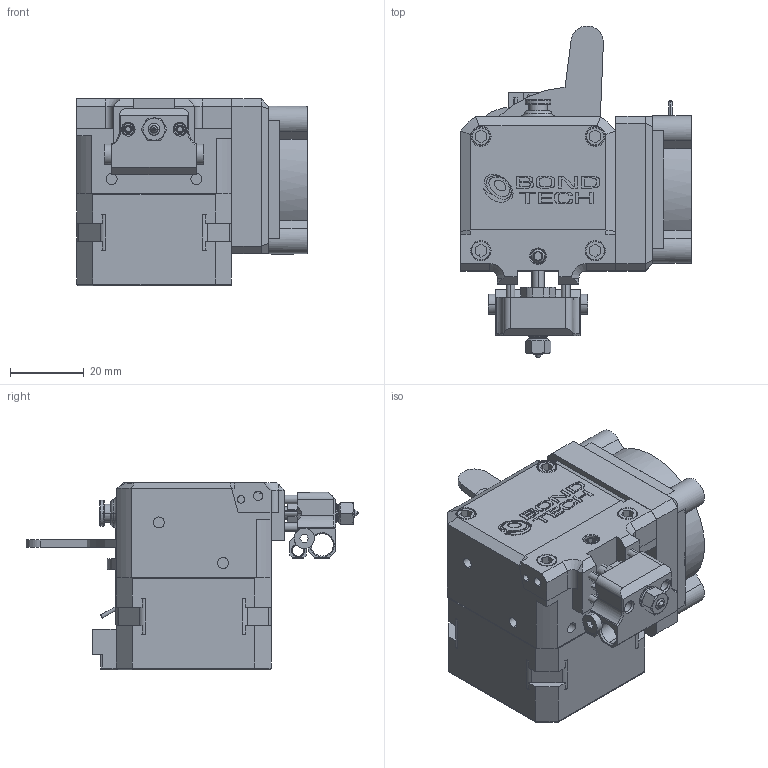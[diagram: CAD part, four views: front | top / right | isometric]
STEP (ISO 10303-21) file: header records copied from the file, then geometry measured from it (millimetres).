
FILE_DESCRIPTION (( 'STEP AP214' ), '1' );
FILE_NAME ('LGX Shortcut Mosquito RH.STEP', '2022-06-08T07:19:12', ( '' ), ( '' ), 'SwSTEP 2.0', 'SolidWorks 2022', '' );
FILE_SCHEMA (( 'AUTOMOTIVE_DESIGN' ));
Length unit declared in the file: millimetre
Products named in the file (1): LGX Shortcut Mosquito RH
Bounding box: 62.6 x 90.08 x 50.95 mm (x, y, z)
Surface area: 31968.5 mm2 (no closed solid volume)
Topology: 0 solids, 18 shells, 894 faces, 2292 edges, 1470 vertices
Faces by surface type: plane 467, cylinder 206, bspline 108, cone 69, torus 42, sphere 2
Entity records: 30484 total; most frequent: CARTESIAN_POINT 9894, ORIENTED_EDGE 4518, DIRECTION 3671, EDGE_CURVE 2282, VERTEX_POINT 1470, VECTOR 1231, LINE 1231, AXIS2_PLACEMENT_3D 1220
